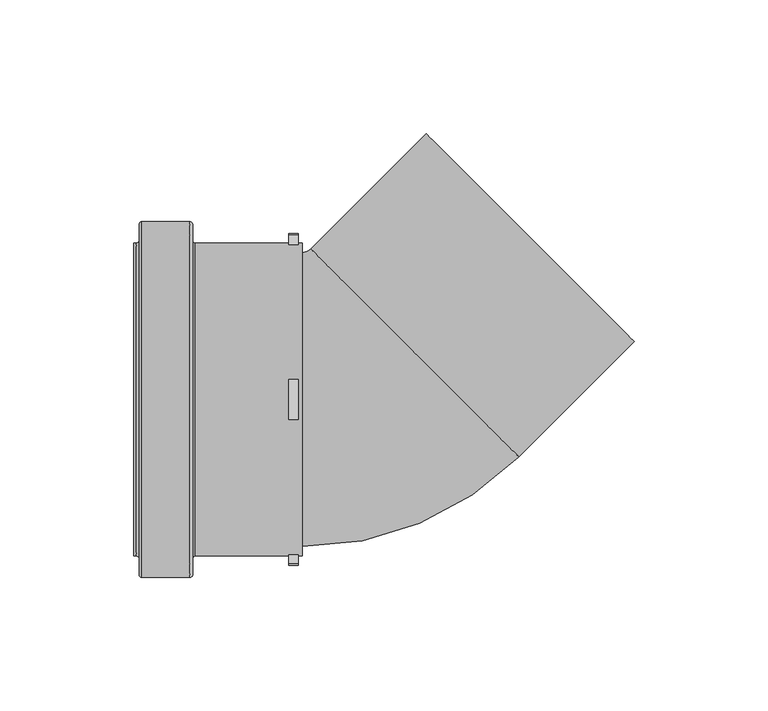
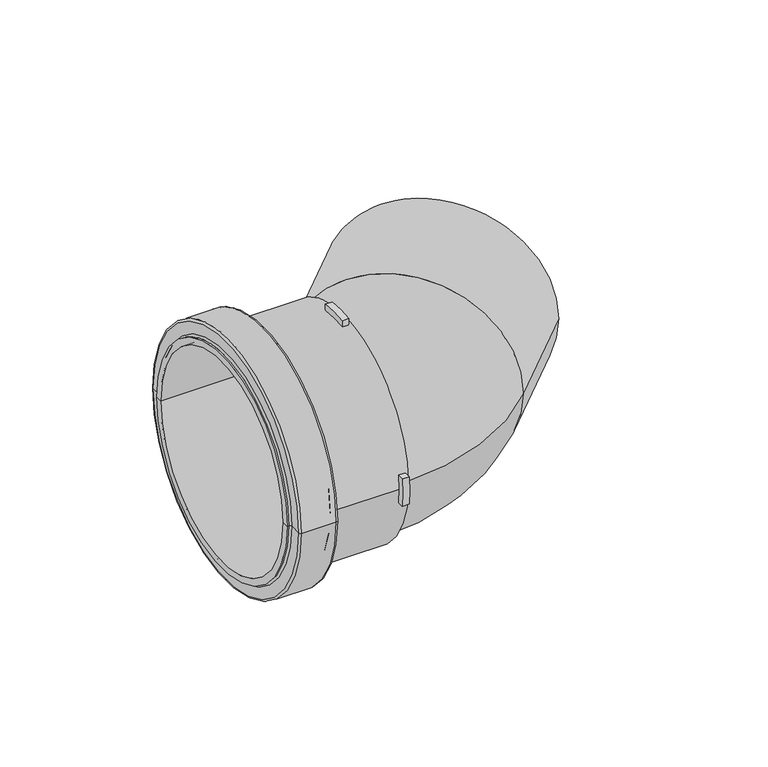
"""IFC4 building model written with IfcOpenShell, lengths in millimetres: pipe fitting geometry, MarleyPlumbingAndDrainage_PipeFitting_dBlue45DegreeBend_VKL : VKL-110-000-45D - 110mm - Blue."""

from ifc_helpers import new_model, si_unit, point, frame, origin, place, context, project, spatial, polyline, circle_curve, ellipse_curve, trimmed, source, transform, mapped, element, save
from ifc_brep_helpers import plane_surface, cylinder_surface, revolved_surface, advanced_brep


def pipe_fitting_485433b0(model_context):
    return source(origin(), model_context, "Body", "AdvancedBrep", [
        advanced_brep(
        [(-81.412495, 66.5, 0.0), (-81.412495, -66.5, 0.0), (-80.412495, -65.5, 0.0), (-80.412495, 65.5, 0.0), (-99.412495, 66.5, 0.0), (-99.412495, -66.5, 0.0), (-100.412495, 65.5, 0.0), (-100.412495, -65.5, 0.0), (-100.412495, 59.5, 0.0), (-100.412495, -59.5, 0.0), (-101.412495, 58.5, 0.0), (-101.412495, -58.5, 0.0), (-102.412495, 55.0, 0.0), (-102.412495, -55.0, 0.0), (-102.412495, -58.5, 0.0), (-102.412495, 58.5, 0.0), (-39.412495, 55.0, 0.0), (-39.412495, -55.0, 0.0), (-39.412495, 58.5, 0.0), (-39.412495, -58.5, 0.0), (-40.912495, 58.5, 0.0), (-40.912495, 58.0172388, 7.5), (-44.412495, 58.0172388, 7.5), (-44.412495, 58.5, 0.0), (-79.412495, 58.5, 0.0), (-79.412495, -58.5, 0.0), (-44.412495, -58.5, 0.0), (-44.412495, -58.0172388, 7.5), (-40.912495, -58.0172388, 7.5), (-40.912495, -58.5, 0.0), (-44.412495, -7.5, 58.0172388), (-44.412495, 7.5, 58.0172388), (-40.912495, 7.5, 58.0172388), (-40.912495, -7.5, 58.0172388), (-40.912495, -58.0172388, -7.5), (-44.412495, -58.0172388, -7.5), (-44.412495, 58.0172388, -7.5), (-40.912495, 58.0172388, -7.5), (-44.412495, 7.5, -58.0172388), (-44.412495, -7.5, -58.0172388), (-40.912495, -7.5, -58.0172388), (-40.912495, 7.5, -58.0172388), (-80.412495, 59.5, 0.0), (-80.412495, -59.5, 0.0), (-44.412495, 61.5446992, 7.5), (-44.412495, 61.5446992, -7.5), (-44.412495, -7.5, 61.5446992), (-44.412495, 7.5, 61.5446992), (-44.412495, -61.5446992, -7.5), (-44.412495, -61.5446992, 7.5), (-44.412495, 7.5, -61.5446992), (-44.412495, -7.5, -61.5446992), (-40.912495, 61.5446992, -7.5), (-40.912495, 61.5446992, 7.5), (-40.912495, 7.5, 61.5446992), (-40.912495, -7.5, 61.5446992), (-40.912495, -61.5446992, 7.5), (-40.912495, -61.5446992, -7.5), (-40.912495, -7.5, -61.5446992), (-40.912495, 7.5, -61.5446992)],
        [
            (0, 1, circle_curve(frame((-81.412495, 0.0, 0.0), z_axis=(1.0, 0.0, 0.0), x_axis=(0.0, -1.0, 0.0)), 66.5)),
            (1, 2, circle_curve(frame((-81.412495, -65.5, 0.0), z_axis=(0.0, 0.0, 1.0), x_axis=(0.0, -1.0, 0.0)), 1.0)),
            (2, 3, circle_curve(frame((-80.412495, 0.0, 0.0), z_axis=(-1.0, 0.0, 0.0), x_axis=(0.0, -1.0, 0.0)), 65.5)),
            (3, 0, circle_curve(frame((-81.412495, 65.5, 0.0), z_axis=(0.0, 0.0, 1.0), x_axis=(0.0, 1.0, 0.0)), 1.0)),
            (1, 0, circle_curve(frame((-81.412495, 0.0, 0.0), z_axis=(1.0, 0.0, 0.0), x_axis=(0.0, -1.0, 0.0)), 66.5)),
            (3, 2, circle_curve(frame((-80.412495, 0.0, 0.0), z_axis=(-1.0, 0.0, 0.0), x_axis=(0.0, -1.0, 0.0)), 65.5)),
            (0, 4),
            (4, 5, circle_curve(frame((-99.412495, 0.0, 0.0), z_axis=(1.0, 0.0, 0.0), x_axis=(0.0, -1.0, 0.0)), 66.5)),
            (5, 1),
            (5, 4, circle_curve(frame((-99.412495, 0.0, 0.0), z_axis=(1.0, 0.0, 0.0), x_axis=(0.0, -1.0, 0.0)), 66.5)),
            (4, 6, circle_curve(frame((-99.412495, 65.5, 0.0), z_axis=(0.0, 0.0, 1.0), x_axis=(0.0, 1.0, 0.0)), 1.0)),
            (6, 7, circle_curve(frame((-100.412495, 0.0, 0.0), z_axis=(1.0, 0.0, 0.0), x_axis=(0.0, -1.0, 0.0)), 65.5)),
            (7, 5, circle_curve(frame((-99.412495, -65.5, 0.0), z_axis=(0.0, 0.0, 1.0), x_axis=(0.0, -1.0, 0.0)), 1.0)),
            (7, 6, circle_curve(frame((-100.412495, 0.0, 0.0), z_axis=(1.0, 0.0, 0.0), x_axis=(0.0, -1.0, 0.0)), 65.5)),
            (6, 8),
            (8, 9, circle_curve(frame((-100.412495, 0.0, 0.0), z_axis=(1.0, 0.0, 0.0), x_axis=(0.0, -1.0, 0.0)), 59.5)),
            (9, 7),
            (9, 8, circle_curve(frame((-100.412495, 0.0, 0.0), z_axis=(1.0, 0.0, 0.0), x_axis=(0.0, -1.0, 0.0)), 59.5)),
            (8, 10, circle_curve(frame((-101.412495, 59.5, 0.0), z_axis=(0.0, 0.0, -1.0), x_axis=(0.0, 1.0, 0.0)), 1.0)),
            (10, 11, circle_curve(frame((-101.412495, 0.0, 0.0), z_axis=(1.0, 0.0, 0.0), x_axis=(0.0, -1.0, 0.0)), 58.5)),
            (11, 9, circle_curve(frame((-101.412495, -59.5, 0.0), z_axis=(0.0, 0.0, -1.0), x_axis=(0.0, -1.0, 0.0)), 1.0)),
            (11, 10, circle_curve(frame((-101.412495, 0.0, 0.0), z_axis=(1.0, 0.0, 0.0), x_axis=(0.0, -1.0, 0.0)), 58.5)),
            (12, 13, circle_curve(frame((-102.412495, 0.0, 0.0), z_axis=(1.0, 0.0, 0.0), x_axis=(0.0, -1.0, 0.0)), 55.0)),
            (13, 14),
            (14, 15, circle_curve(frame((-102.412495, 0.0, 0.0), z_axis=(-1.0, 0.0, 0.0), x_axis=(0.0, -1.0, 0.0)), 58.5)),
            (15, 12),
            (13, 12, circle_curve(frame((-102.412495, 0.0, 0.0), z_axis=(1.0, 0.0, 0.0), x_axis=(0.0, -1.0, 0.0)), 55.0)),
            (15, 14, circle_curve(frame((-102.412495, 0.0, 0.0), z_axis=(-1.0, 0.0, 0.0), x_axis=(0.0, -1.0, 0.0)), 58.5)),
            (12, 16),
            (16, 17, circle_curve(frame((-39.412495, 0.0, 0.0), z_axis=(1.0, 0.0, 0.0), x_axis=(0.0, -1.0, 0.0)), 55.0)),
            (17, 13),
            (17, 16, circle_curve(frame((-39.412495, 0.0, 0.0), z_axis=(1.0, 0.0, 0.0), x_axis=(0.0, -1.0, 0.0)), 55.0)),
            (16, 18),
            (18, 19, circle_curve(frame((-39.412495, 0.0, 0.0), z_axis=(1.0, 0.0, 0.0), x_axis=(0.0, -1.0, 0.0)), 58.5)),
            (19, 17),
            (19, 18, circle_curve(frame((-39.412495, 0.0, 0.0), z_axis=(1.0, 0.0, 0.0), x_axis=(0.0, -1.0, 0.0)), 58.5)),
            (18, 20),
            (20, 21, circle_curve(frame((-40.912495, 0.0, 0.0), z_axis=(1.0, 0.0, 0.0), x_axis=(0.0, -1.0, 0.0)), 58.5)),
            (21, 22),
            (22, 23, circle_curve(frame((-44.412495, 0.0, 0.0), z_axis=(-1.0, 0.0, 0.0), x_axis=(0.0, -1.0, 0.0)), 58.5)),
            (23, 24),
            (24, 25, circle_curve(frame((-79.412495, 0.0, 0.0), z_axis=(1.0, 0.0, 0.0), x_axis=(0.0, -1.0, 0.0)), 58.5)),
            (25, 26),
            (26, 27, circle_curve(frame((-44.412495, 0.0, 0.0), z_axis=(-1.0, 0.0, 0.0), x_axis=(0.0, -1.0, 0.0)), 58.5)),
            (27, 28),
            (28, 29, circle_curve(frame((-40.912495, 0.0, 0.0), z_axis=(1.0, 0.0, 0.0), x_axis=(0.0, -1.0, 0.0)), 58.5)),
            (29, 19),
            (30, 31, circle_curve(frame((-44.412495, 0.0, 0.0), z_axis=(-1.0, 0.0, 0.0), x_axis=(0.0, -1.0, 0.0)), 58.5)),
            (31, 32),
            (32, 33, circle_curve(frame((-40.912495, 0.0, 0.0), z_axis=(1.0, 0.0, 0.0), x_axis=(0.0, -1.0, 0.0)), 58.5)),
            (33, 30),
            (29, 34, circle_curve(frame((-40.912495, 0.0, 0.0), z_axis=(1.0, 0.0, 0.0), x_axis=(0.0, -1.0, 0.0)), 58.5)),
            (34, 35),
            (35, 26, circle_curve(frame((-44.412495, 0.0, 0.0), z_axis=(-1.0, 0.0, 0.0), x_axis=(0.0, -1.0, 0.0)), 58.5)),
            (25, 24, circle_curve(frame((-79.412495, 0.0, 0.0), z_axis=(1.0, 0.0, 0.0), x_axis=(0.0, -1.0, 0.0)), 58.5)),
            (23, 36, circle_curve(frame((-44.412495, 0.0, 0.0), z_axis=(-1.0, 0.0, 0.0), x_axis=(0.0, -1.0, 0.0)), 58.5)),
            (36, 37),
            (37, 20, circle_curve(frame((-40.912495, 0.0, 0.0), z_axis=(1.0, 0.0, 0.0), x_axis=(0.0, -1.0, 0.0)), 58.5)),
            (38, 39, circle_curve(frame((-44.412495, 0.0, 0.0), z_axis=(-1.0, 0.0, 0.0), x_axis=(0.0, -1.0, 0.0)), 58.5)),
            (39, 40),
            (40, 41, circle_curve(frame((-40.912495, 0.0, 0.0), z_axis=(1.0, 0.0, 0.0), x_axis=(0.0, -1.0, 0.0)), 58.5)),
            (41, 38),
            (24, 42, circle_curve(frame((-79.412495, 59.5, 0.0), z_axis=(0.0, 0.0, -1.0), x_axis=(0.0, 1.0, 0.0)), 1.0)),
            (42, 43, circle_curve(frame((-80.412495, 0.0, 0.0), z_axis=(1.0, 0.0, 0.0), x_axis=(0.0, -1.0, 0.0)), 59.5)),
            (43, 25, circle_curve(frame((-79.412495, -59.5, 0.0), z_axis=(0.0, 0.0, -1.0), x_axis=(0.0, -1.0, 0.0)), 1.0)),
            (43, 42, circle_curve(frame((-80.412495, 0.0, 0.0), z_axis=(1.0, 0.0, 0.0), x_axis=(0.0, -1.0, 0.0)), 59.5)),
            (2, 43),
            (42, 3),
            (10, 15),
            (14, 11),
            (22, 44),
            (44, 45, circle_curve(frame((-44.412495, 0.0, 0.0), z_axis=(-1.0, 0.0, 0.0), x_axis=(0.0, -1.0, 0.0)), 62.0)),
            (45, 36),
            (30, 46),
            (46, 47, circle_curve(frame((-44.412495, 0.0, 0.0), z_axis=(-1.0, 0.0, 0.0), x_axis=(0.0, -1.0, 0.0)), 62.0)),
            (47, 31),
            (35, 48),
            (48, 49, circle_curve(frame((-44.412495, 0.0, 0.0), z_axis=(-1.0, 0.0, 0.0), x_axis=(0.0, -1.0, 0.0)), 62.0)),
            (49, 27),
            (38, 50),
            (50, 51, circle_curve(frame((-44.412495, 0.0, 0.0), z_axis=(-1.0, 0.0, 0.0), x_axis=(0.0, -1.0, 0.0)), 62.0)),
            (51, 39),
            (37, 52),
            (52, 53, circle_curve(frame((-40.912495, 0.0, 0.0), z_axis=(1.0, 0.0, 0.0), x_axis=(0.0, -1.0, 0.0)), 62.0)),
            (53, 21),
            (32, 54),
            (54, 55, circle_curve(frame((-40.912495, 0.0, 0.0), z_axis=(1.0, 0.0, 0.0), x_axis=(0.0, -1.0, 0.0)), 62.0)),
            (55, 33),
            (28, 56),
            (56, 57, circle_curve(frame((-40.912495, 0.0, 0.0), z_axis=(1.0, 0.0, 0.0), x_axis=(0.0, -1.0, 0.0)), 62.0)),
            (57, 34),
            (40, 58),
            (58, 59, circle_curve(frame((-40.912495, 0.0, 0.0), z_axis=(1.0, 0.0, 0.0), x_axis=(0.0, -1.0, 0.0)), 62.0)),
            (59, 41),
            (53, 44),
            (52, 45),
            (55, 46),
            (54, 47),
            (57, 48),
            (56, 49),
            (59, 50),
            (58, 51),
        ],
        [
            revolved_surface(trimmed(ellipse_curve(frame((-81.412495, -65.5, 0.0), z_axis=(0.0, 0.0, -1.0), x_axis=(0.0, -1.0, 0.0)), 1.0, 1.0), [point((-80.412495, -65.5, 0.0))], [point((-81.412495, -66.5, 0.0))], True, "CARTESIAN"), (-157.412495, 0.0, 0.0), (-1.0, 0.0, 0.0)),
            cylinder_surface(frame((-157.412495, 0.0, 0.0), z_axis=(-1.0, 0.0, 0.0), x_axis=(0.0, -1.0, 0.0)), 66.5),
            revolved_surface(trimmed(ellipse_curve(frame((-99.412495, -65.5, 0.0), z_axis=(0.0, 0.0, -1.0), x_axis=(0.0, -1.0, 0.0)), 1.0, 1.0), [point((-99.412495, -66.5, 0.0))], [point((-100.412495, -65.5, 0.0))], True, "CARTESIAN"), (-157.412495, 0.0, 0.0), (-1.0, 0.0, 0.0)),
            plane_surface(frame((-100.412495, 0.0, 0.0), z_axis=(-1.0, 0.0, 0.0), x_axis=(0.0, -1.0, 0.0))),
            revolved_surface(trimmed(ellipse_curve(frame((-101.412495, -59.5, 0.0), z_axis=(0.0, 0.0, 1.0), x_axis=(0.0, -1.0, 0.0)), 1.0, 1.0), [point((-100.412495, -59.5, 0.0))], [point((-101.412495, -58.5, 0.0))], True, "CARTESIAN"), (-157.412495, 0.0, 0.0), (-1.0, 0.0, 0.0)),
            plane_surface(frame((-102.412495, 0.0, 0.0), z_axis=(-1.0, 0.0, 0.0), x_axis=(0.0, -1.0, 0.0))),
            revolved_surface(polyline([(-102.412495, -55.0, 0.0), (-39.41249500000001, -55.0, 0.0)]), (-157.412495, 0.0, 0.0), (-1.0, 0.0, 0.0)),
            plane_surface(frame((-39.412495, 0.0, 0.0), z_axis=(1.0, 0.0, 0.0), x_axis=(0.0, -1.0, 0.0))),
            cylinder_surface(frame((-157.412495, 0.0, 0.0), z_axis=(-1.0, 0.0, 0.0), x_axis=(0.0, -1.0, 0.0)), 58.5),
            revolved_surface(trimmed(ellipse_curve(frame((-79.412495, -59.5, 0.0), z_axis=(0.0, 0.0, 1.0), x_axis=(0.0, -1.0, 0.0)), 1.0, 1.0), [point((-79.412495, -58.5, 0.0))], [point((-80.412495, -59.5, 0.0))], True, "CARTESIAN"), (-157.412495, 0.0, 0.0), (-1.0, 0.0, 0.0)),
            plane_surface(frame((-80.412495, 0.0, 0.0), z_axis=(1.0, 0.0, 0.0), x_axis=(0.0, -1.0, 0.0))),
            plane_surface(frame((-44.412495, -58.5, 0.0), z_axis=(-1.0, 0.0, 0.0), x_axis=(0.0, 0.0, -1.0))),
            plane_surface(frame((-40.912495, -58.5, 0.0), z_axis=(1.0, 0.0, 0.0), x_axis=(0.0, 0.0, 1.0))),
            plane_surface(frame((-44.412495, 58.0172388, 7.5), z_axis=(0.0, 0.0, 1.0), x_axis=(1.0, 0.0, 0.0))),
            cylinder_surface(frame((-40.912495, 0.0, 0.0), z_axis=(-1.0, 0.0, 0.0), x_axis=(0.0, -1.0, 0.0)), 62.0),
            plane_surface(frame((-44.412495, 61.5446992, -7.5), z_axis=(0.0, 0.0, -1.0), x_axis=(1.0, 0.0, 0.0))),
            plane_surface(frame((-44.412495, -7.5, 58.0172388), z_axis=(0.0, -1.0, 0.0), x_axis=(1.0, 0.0, 0.0))),
            cylinder_surface(frame((-39.412495, 0.0, 0.0), z_axis=(-1.0, 0.0, 0.0), x_axis=(0.0, -1.0, 0.0)), 62.0),
            plane_surface(frame((-44.412495, 7.5, 61.5446992), z_axis=(0.0, 1.0, 0.0), x_axis=(1.0, 0.0, 0.0))),
            plane_surface(frame((-44.412495, -58.0172388, -7.5), z_axis=(0.0, 0.0, -1.0), x_axis=(1.0, 0.0, 0.0))),
            plane_surface(frame((-44.412495, -61.5446992, 7.5), z_axis=(0.0, 0.0, 1.0), x_axis=(1.0, 0.0, 0.0))),
            plane_surface(frame((-44.412495, 7.5, -58.0172388), z_axis=(0.0, 1.0, 0.0), x_axis=(1.0, 0.0, 0.0))),
            plane_surface(frame((-44.412495, -7.5, -61.5446992), z_axis=(0.0, -1.0, 0.0), x_axis=(1.0, 0.0, 0.0))),
        ],
        [
            (0, [[1, 2, 3, 4]]),
            (0, [[-2, 5, -4, 6]]),
            (1, [[-1, 7, 8, 9]]),
            (1, [[-5, -9, 10, -7]]),
            (2, [[-8, 11, 12, 13]]),
            (2, [[-10, -13, 14, -11]]),
            (3, [[-12, 15, 16, 17]]),
            (3, [[-14, -17, 18, -15]]),
            (4, [[-16, 19, 20, 21]]),
            (4, [[-18, -21, 22, -19]]),
            (5, [[23, 24, 25, 26]]),
            (5, [[-24, 27, -26, 28]]),
            (6, [[-23, 29, 30, 31]]),
            (6, [[-27, -31, 32, -29]]),
            (7, [[-30, 33, 34, 35]]),
            (7, [[-32, -35, 36, -33]]),
            (8, [[-34, 37, 38, 39, 40, 41, 42, 43, 44, 45, 46, 47], [48, 49, 50, 51]]),
            (8, [[-36, -47, 52, 53, 54, -43, 55, -41, 56, 57, 58, -37], [59, 60, 61, 62]]),
            (9, [[-42, 63, 64, 65]]),
            (9, [[-55, -65, 66, -63]]),
            (10, [[-3, 67, -64, 68]]),
            (10, [[-6, -68, -66, -67]]),
            (8, [[-20, 69, -25, 70]]),
            (8, [[-22, -70, -28, -69]]),
            (11, [[71, 72, 73, -56, -40]]),
            (11, [[74, 75, 76, -48]]),
            (11, [[77, 78, 79, -44, -54]]),
            (11, [[80, 81, 82, -59]]),
            (12, [[83, 84, 85, -38, -58]]),
            (12, [[86, 87, 88, -50]]),
            (12, [[89, 90, 91, -52, -46]]),
            (12, [[92, 93, 94, -61]]),
            (13, [[-71, -39, -85, 95]]),
            (14, [[-72, -95, -84, 96]]),
            (15, [[-73, -96, -83, -57]]),
            (16, [[-74, -51, -88, 97]]),
            (17, [[-75, -97, -87, 98]]),
            (18, [[-76, -98, -86, -49]]),
            (19, [[-77, -53, -91, 99]]),
            (17, [[-78, -99, -90, 100]]),
            (20, [[-79, -100, -89, -45]]),
            (21, [[-80, -62, -94, 101]]),
            (17, [[-81, -101, -93, 102]]),
            (22, [[-82, -102, -92, -60]]),
        ],
    ),
        advanced_brep(
        [(-39.412495, -55.0, 0.0), (-39.412495, 55.0, 0.0), (-36.2305145, 56.3180195, 0.0), (41.5512314, -21.4637264, 0.0), (84.6847451, 21.6697872, 0.0), (6.9029991, 99.4515331, 0.0)],
        [
            (0, 1, circle_curve(frame((-39.412495, 0.0, 0.0), z_axis=(-1.0, 0.0, 0.0), x_axis=(0.0, 1.0, 0.0)), 55.0)),
            (1, 0, circle_curve(frame((-39.412495, 0.0, 0.0), z_axis=(-1.0, 0.0, 0.0), x_axis=(0.0, 1.0, 0.0)), 55.0)),
            (2, 1, circle_curve(frame((-39.412495, 59.5, 0.0), z_axis=(0.0, 0.0, -1.0), x_axis=(0.0, -1.0, 0.0)), 4.5)),
            (0, 3, circle_curve(frame((-39.412495, 59.5, 0.0), z_axis=(0.0, 0.0, 1.0), x_axis=(0.0, -1.0, 0.0)), 114.5)),
            (3, 2, circle_curve(frame((2.6603584, 17.4271465, 0.0), z_axis=(-0.7071067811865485, -0.7071067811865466, 0.0), x_axis=(-0.7071067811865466, 0.7071067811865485, 0.0)), 55.0)),
            (2, 3, circle_curve(frame((2.6603584, 17.4271465, 0.0), z_axis=(-0.7071067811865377, -0.7071067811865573, 0.0), x_axis=(-0.7071067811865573, 0.7071067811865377, 0.0)), 55.0)),
            (4, 5, circle_curve(frame((45.7938721, 60.5606602, 0.0), z_axis=(0.7071067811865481, 0.707106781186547, 0.0), x_axis=(-0.707106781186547, 0.7071067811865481, 0.0)), 55.0)),
            (5, 4, circle_curve(frame((45.7938721, 60.5606602, 0.0), z_axis=(0.7071067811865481, 0.707106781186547, 0.0), x_axis=(-0.707106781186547, 0.7071067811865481, 0.0)), 55.0)),
            (3, 4),
            (5, 2),
        ],
        [
            plane_surface(frame((-39.412495, 0.0, 0.0), z_axis=(-1.0, 0.0, 0.0), x_axis=(0.0, 0.0, 1.0))),
            revolved_surface(trimmed(ellipse_curve(frame((-39.412495, 0.0, 0.0), z_axis=(-1.0, 0.0, 0.0), x_axis=(0.0, 1.0, 0.0)), 55.0, 55.0), [point((-39.412495, -55.0, 0.0))], [point((-39.412495, 55.0, 0.0))], True, "CARTESIAN"), (-39.412495, 59.5, 0.0), (0.0, 0.0, 1.0)),
            revolved_surface(trimmed(ellipse_curve(frame((-39.412495, 0.0, 0.0), z_axis=(-1.0, 0.0, 0.0), x_axis=(0.0, 1.0, 0.0)), 55.0, 55.0), [point((-39.412495, 55.0, 0.0))], [point((-39.412495, -55.0, 0.0))], True, "CARTESIAN"), (-39.412495, 59.5, 0.0), (0.0, 0.0, 1.0)),
            plane_surface(frame((45.7938721, 60.5606602, 0.0), z_axis=(0.7071067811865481, 0.707106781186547, 0.0), x_axis=(0.0, 0.0, 1.0))),
            cylinder_surface(frame((2.6603584, 17.4271465, 0.0), z_axis=(-0.7071067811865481, -0.707106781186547, 0.0), x_axis=(-0.707106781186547, 0.7071067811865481, 0.0)), 55.0),
        ],
        [
            (0, [[1, 2]]),
            (1, [[3, -1, 4, 5]]),
            (2, [[-4, -2, -3, 6]]),
            (3, [[7, 8]]),
            (4, [[-5, 9, -8, 10]]),
            (4, [[-6, -10, -7, -9]]),
        ],
    ),
    ])


if __name__ == "__main__":
    model = new_model("IFC4")
    model_context = context("Model", 3, world=origin())
    ifc_project = project(units=[si_unit("LENGTHUNIT", "METRE", prefix="MILLI")], contexts=[model_context])
    site = spatial("IfcSite", under=ifc_project)
    building = spatial("IfcBuilding", under=site)
    placement = place(None, origin())
    pipe_fitting_shape = pipe_fitting_485433b0(model_context)
    element("IfcPipeFitting", 1, ObjectType="MarleyPlumbingAndDrainage_PipeFitting_dBlue45DegreeBend_VKL : VKL-110-000-45D - 110mm - Blue", at=placement, inside=building, context=model_context, shape_type="MappedRepresentation", body=[
        mapped(pipe_fitting_shape, transform((0.0, 0.0, 0.0), x_axis=(1.0, 0.0, 0.0), y_axis=(0.0, 1.0, 0.0), z_axis=(0.0, 0.0, 1.0))),
    ])
    save(model, "model.ifc")
